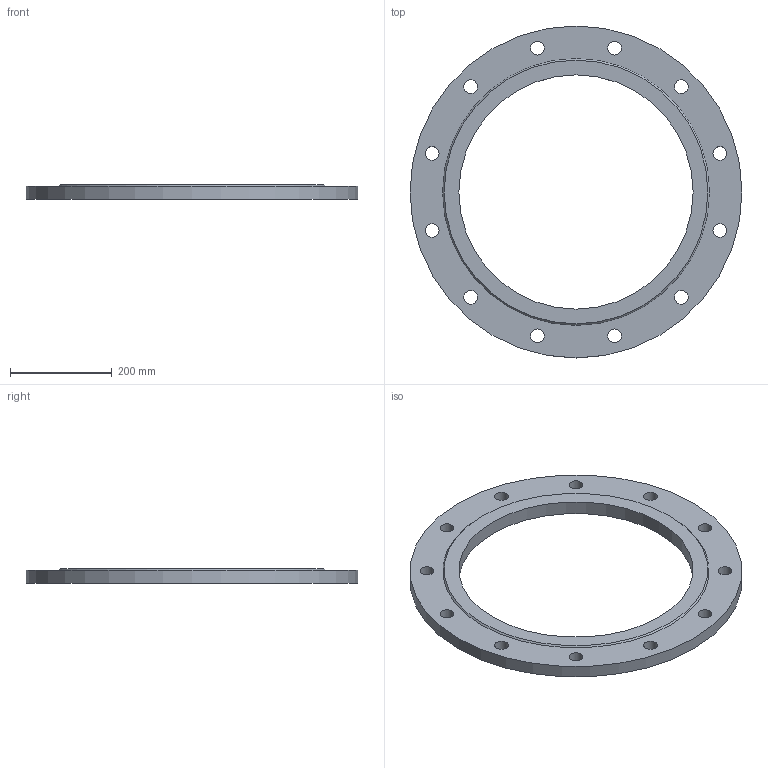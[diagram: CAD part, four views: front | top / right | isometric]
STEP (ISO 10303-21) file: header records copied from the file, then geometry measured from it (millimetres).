
FILE_DESCRIPTION(/* description */ (''),/* implementation_level */ '2;1');
FILE_NAME(/* name */ 'C:\Users\D\Documents\Inventor\HP\JIS\フランジ\水道用フランジF12\PL\ffws_pl_450.stp',/* time_stamp */ '2024-08-28T10:12:34+09:00',/* author */ ('D'),/* organization */ (''),/* preprocessor_version */ 'ST-DEVELOPER v18',/* originating_system */ 'Autodesk Inventor 2020',/* authorisation */ '');
FILE_SCHEMA (('AUTOMOTIVE_DESIGN { 1 0 10303 214 3 1 1 }'));
Length unit declared in the file: millimetre
Products named in the file (1): ffws_pl_80
Bounding box: 652 x 652 x 28 mm (x, y, z)
Volume: 4161378.8 mm3; surface area: 440782.5 mm2
Topology: 1 solids, 1 shells, 18 faces, 62 edges, 47 vertices
Faces by surface type: cylinder 14, plane 3, cone 1
Full cylindrical faces by diameter (mm): 27 x12, 460 x1, 652 x1
Entity records: 822 total; most frequent: DIRECTION 147, CARTESIAN_POINT 128, ORIENTED_EDGE 124, AXIS2_PLACEMENT_3D 66, EDGE_CURVE 62, CIRCLE 47, VERTEX_POINT 47, EDGE_LOOP 45
